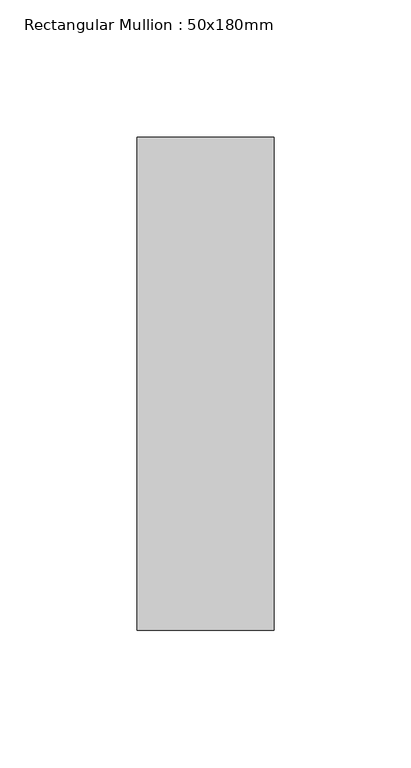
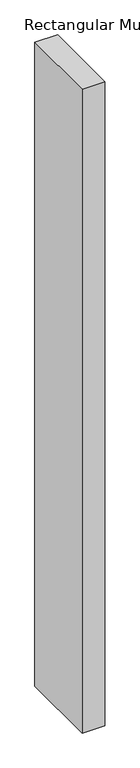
"""IFC4 building model written with IfcOpenShell, lengths in millimetres: member geometry, Rectangular Mullion : 50x180mm."""

from ifc_helpers import new_model, si_unit, frame, origin, place, context, project, spatial, polyline, outline, extrude, source, transform, mapped, element, save


def rectangular_mullion_50x180mm_c30fec06(model_context):
    return source(origin(), model_context, "Body", "SweptSolid", [
        extrude(outline(polyline([(0.0, 90.0), (0.0, -90.0), (-50.0, -90.0), (-50.0, 90.0), (0.0, 90.0)])), frame((0.0, 0.0, -1500.0), z_axis=(0.0, 0.0, 1.0), x_axis=(1.0, 0.0, 0.0)), (0.0, 0.0, 1.0), 1500.0),
    ])


if __name__ == "__main__":
    model = new_model("IFC4")
    model_context = context("Model", 3, world=origin())
    ifc_project = project(units=[si_unit("LENGTHUNIT", "METRE", prefix="MILLI")], contexts=[model_context])
    site = spatial("IfcSite", under=ifc_project)
    building = spatial("IfcBuilding", under=site)
    placement = place(None, origin())
    rectangular_mullion_50x180mm_shape = rectangular_mullion_50x180mm_c30fec06(model_context)
    element("IfcMember", 1, ObjectType="Rectangular Mullion : 50x180mm", at=placement, inside=building, context=model_context, shape_type="MappedRepresentation", body=[
        mapped(rectangular_mullion_50x180mm_shape, transform((0.0, 0.0, 0.0), x_axis=(1.0, 0.0, 0.0), y_axis=(0.0, 1.0, 0.0), z_axis=(0.0, 0.0, 1.0))),
    ])
    save(model, "model.ifc")
